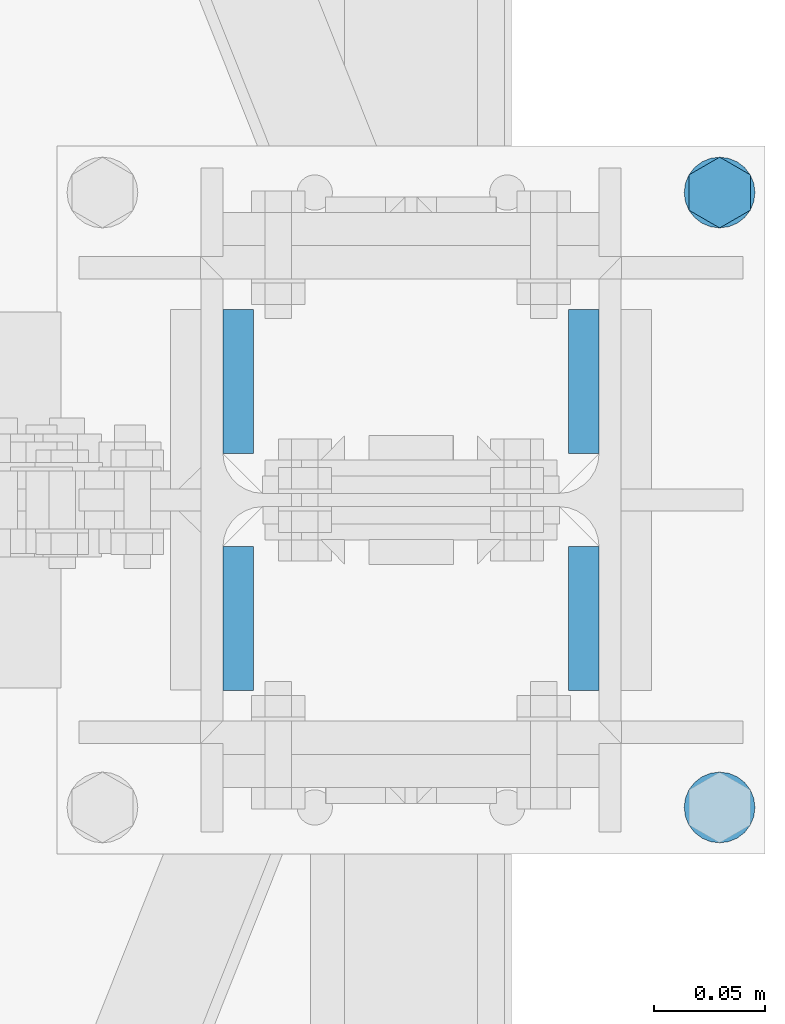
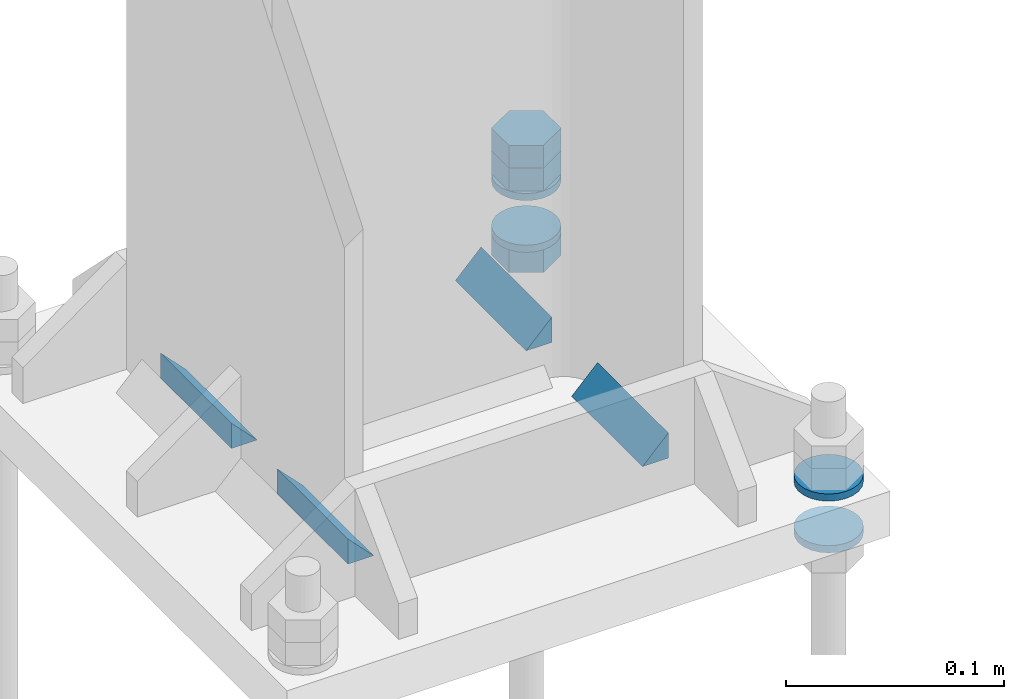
# One storey, part 167 of 251: 8 fasteners, 7 mechanical fasteners.
"""IFC4 building model written with IfcOpenShell, lengths in metres."""

from ifc_helpers import new_model, si_unit, frame, origin_with_axes, place, context, project, spatial, polyline, outline, extrude, type_object, element, save


model = new_model("IFC4")

# Units and contexts
model_context = context("Model", 3, precision=1e-05, world=origin_with_axes())
ifc_project = project(units=[si_unit("LENGTHUNIT", "METRE"), si_unit("AREAUNIT", "SQUARE_METRE"), si_unit("VOLUMEUNIT", "CUBIC_METRE"), si_unit("MASSUNIT", "GRAM", prefix="KILO"), si_unit("TIMEUNIT", "SECOND"), si_unit("PLANEANGLEUNIT", "RADIAN"), si_unit("SOLIDANGLEUNIT", "STERADIAN"), si_unit("THERMODYNAMICTEMPERATUREUNIT", "DEGREE_CELSIUS")], contexts=[model_context])

# Site, building, storey
placement_1 = place(None, origin_with_axes())
site = spatial("IfcSite", under=ifc_project, at=placement_1, Name="Italia", CompositionType="ELEMENT")
building = spatial("IfcBuilding", under=site, at=placement_1, Name="Deposito", CompositionType="ELEMENT")
storey = spatial("IfcBuildingStorey", under=building, at=placement_1, Name="Storey 0", CompositionType="ELEMENT", Elevation=0.0)

# Fasteners
fastener_type_1 = type_object("IfcFastenerType", Name="Collegamenti 0014_-001 0016_-054 0018_-056 0032_-002 0033_-058 0047_-003 0048_-060 0062_-004 0063_-005 0079_-008", PredefinedType="WELD")
placement_2 = place(placement_1, origin_with_axes())
fastener_1_placement = place(placement_2, origin_with_axes())
element("IfcFastener", 1, at=fastener_1_placement, inside=storey, type_object=fastener_type_1, Name="Collegamenti 0014_-001 0016_-054 0018_-056 0032_-002 0033_-058 0047_-003 0048_-060 0062_-004 0063_-005 0079_-008", context=model_context, shape_type="SweptSolid", body=[
    extrude(outline(polyline([(0.0, 0.0), (0.0137482, 0.0141734), (0.0137482, 0.0), (0.0, 0.0)])), frame((19.9287, 10.021, 0.07495), z_axis=(0.0, 1.0, 0.0), x_axis=(-1.0, 0.0, 0.0)), (0.0, 0.0, 1.0), 0.0650997),
])
fastener_type_2 = type_object("IfcFastenerType", Name="Collegamenti 0014_-001 0016_-054 0018_-056 0032_-002 0033_-058 0047_-003 0048_-060 0062_-004 0063_-005 0079_-008", PredefinedType="WELD")
fastener_2_placement = place(placement_2, origin_with_axes())
element("IfcFastener", 2, at=fastener_2_placement, inside=storey, type_object=fastener_type_2, Name="Collegamenti 0014_-001 0016_-054 0018_-056 0032_-002 0033_-058 0047_-003 0048_-060 0062_-004 0063_-005 0079_-008", context=model_context, shape_type="SweptSolid", body=[
    extrude(outline(polyline([(0.0, 0.0), (0.0137482, 0.0141734), (0.0137482, 0.0), (0.0, 0.0)])), frame((20.0713, 10.0861, 0.07495), z_axis=(0.0, -1.0, 0.0), x_axis=(1.0, 0.0, 0.0)), (0.0, 0.0, 1.0), 0.0650997),
])
fastener_type_3 = type_object("IfcFastenerType", Name="Collegamenti 0014_-001 0016_-054 0018_-056 0032_-002 0033_-058 0047_-003 0048_-060 0062_-004 0063_-005 0079_-008", PredefinedType="WELD")
fastener_3_placement = place(placement_2, origin_with_axes())
element("IfcFastener", 3, at=fastener_3_placement, inside=storey, type_object=fastener_type_3, Name="Collegamenti 0014_-001 0016_-054 0018_-056 0032_-002 0033_-058 0047_-003 0048_-060 0062_-004 0063_-005 0079_-008", context=model_context, shape_type="SweptSolid", body=[
    extrude(outline(polyline([(0.0, 0.0), (0.0137482, 0.0141734), (0.0137482, 0.0), (0.0, 0.0)])), frame((20.0713, 9.97905, 0.07495), z_axis=(0.0, -1.0, 0.0), x_axis=(1.0, 0.0, 0.0)), (0.0, 0.0, 1.0), 0.0650997),
])
fastener_type_4 = type_object("IfcFastenerType", Name="Collegamenti 0014_-001 0016_-054 0018_-056 0032_-002 0033_-058 0047_-003 0048_-060 0062_-004 0063_-005 0079_-008", PredefinedType="WELD")
fastener_4_placement = place(placement_2, origin_with_axes())
element("IfcFastener", 4, at=fastener_4_placement, inside=storey, type_object=fastener_type_4, Name="Collegamenti 0014_-001 0016_-054 0018_-056 0032_-002 0033_-058 0047_-003 0048_-060 0062_-004 0063_-005 0079_-008", context=model_context, shape_type="SweptSolid", body=[
    extrude(outline(polyline([(0.0, 0.0), (0.0137482, 0.0141734), (0.0137482, 0.0), (0.0, 0.0)])), frame((19.9287, 9.91395, 0.07495), z_axis=(0.0, 1.0, 0.0), x_axis=(-1.0, 0.0, 0.0)), (0.0, 0.0, 1.0), 0.0650997),
])
fastener_type_5 = type_object("IfcFastenerType", Name="Collegamenti 0014_-001 0016_-054 0018_-056 0032_-002 0033_-058 0047_-003 0048_-060 0062_-004 0063_-005 0079_-008", PredefinedType="WELD")
fastener_5_placement = place(placement_2, origin_with_axes())
element("IfcFastener", 5, at=fastener_5_placement, inside=storey, type_object=fastener_type_5, Name="Collegamenti 0014_-001 0016_-054 0018_-056 0032_-002 0033_-058 0047_-003 0048_-060 0062_-004 0063_-005 0079_-008", context=model_context, shape_type="SweptSolid", body=[
    extrude(outline(polyline([(0.0, 0.0), (0.0137482, 0.0141734), (0.0137482, 0.0), (0.0, 0.0)])), frame((19.9287, 10.021, 0.07495), z_axis=(0.0, 1.0, 0.0), x_axis=(-1.0, 0.0, 0.0)), (0.0, 0.0, 1.0), 0.0650997),
])
fastener_type_6 = type_object("IfcFastenerType", Name="Collegamenti 0014_-001 0016_-054 0018_-056 0032_-002 0033_-058 0047_-003 0048_-060 0062_-004 0063_-005 0079_-008", PredefinedType="WELD")
fastener_6_placement = place(placement_2, origin_with_axes())
element("IfcFastener", 6, at=fastener_6_placement, inside=storey, type_object=fastener_type_6, Name="Collegamenti 0014_-001 0016_-054 0018_-056 0032_-002 0033_-058 0047_-003 0048_-060 0062_-004 0063_-005 0079_-008", context=model_context, shape_type="SweptSolid", body=[
    extrude(outline(polyline([(0.0, 0.0), (0.0137482, 0.0141734), (0.0137482, 0.0), (0.0, 0.0)])), frame((20.0713, 10.0861, 0.07495), z_axis=(0.0, -1.0, 0.0), x_axis=(1.0, 0.0, 0.0)), (0.0, 0.0, 1.0), 0.0650997),
])
fastener_type_7 = type_object("IfcFastenerType", Name="Collegamenti 0014_-001 0016_-054 0018_-056 0032_-002 0033_-058 0047_-003 0048_-060 0062_-004 0063_-005 0079_-008", PredefinedType="WELD")
fastener_7_placement = place(placement_2, origin_with_axes())
element("IfcFastener", 7, at=fastener_7_placement, inside=storey, type_object=fastener_type_7, Name="Collegamenti 0014_-001 0016_-054 0018_-056 0032_-002 0033_-058 0047_-003 0048_-060 0062_-004 0063_-005 0079_-008", context=model_context, shape_type="SweptSolid", body=[
    extrude(outline(polyline([(0.0, 0.0), (0.0137482, 0.0141734), (0.0137482, 0.0), (0.0, 0.0)])), frame((20.0713, 9.97905, 0.07495), z_axis=(0.0, -1.0, 0.0), x_axis=(1.0, 0.0, 0.0)), (0.0, 0.0, 1.0), 0.0650997),
])
fastener_type_8 = type_object("IfcFastenerType", Name="Collegamenti 0014_-001 0016_-054 0018_-056 0032_-002 0033_-058 0047_-003 0048_-060 0062_-004 0063_-005 0079_-008", PredefinedType="WELD")
fastener_8_placement = place(placement_2, origin_with_axes())
element("IfcFastener", 8, at=fastener_8_placement, inside=storey, type_object=fastener_type_8, Name="Collegamenti 0014_-001 0016_-054 0018_-056 0032_-002 0033_-058 0047_-003 0048_-060 0062_-004 0063_-005 0079_-008", context=model_context, shape_type="SweptSolid", body=[
    extrude(outline(polyline([(0.0, 0.0), (0.0137482, 0.0141734), (0.0137482, 0.0), (0.0, 0.0)])), frame((19.9287, 9.91395, 0.07495), z_axis=(0.0, 1.0, 0.0), x_axis=(-1.0, 0.0, 0.0)), (0.0, 0.0, 1.0), 0.0650997),
])

# Mechanical fasteners
mechanical_fastener_type_1 = type_object("IfcMechanicalFastenerType", Name="Collegamenti 0014_-001 0016_-054 0018_-056 0032_-002 0033_-058 0047_-003 0048_-060 0062_-004 0063_-005 0079_-008", PredefinedType="BOLT")
mechanical_fastener_1_placement = place(placement_2, origin_with_axes())
element("IfcMechanicalFastener", 9, at=mechanical_fastener_1_placement, inside=storey, type_object=mechanical_fastener_type_1, Name="Collegamenti 0014_-001 0016_-054 0018_-056 0032_-002 0033_-058 0047_-003 0048_-060 0062_-004 0063_-005 0079_-008", NominalDiameter=0.032, context=model_context, shape_type="SweptSolid", body=[
    extrude(outline(polyline([(0.0, 0.0), (-0.000544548, -0.00414085), (-0.00214386, -0.00799942), (-0.00468636, -0.0113144), (-0.00799942, -0.0138569), (-0.0118589, -0.0154552), (-0.0159998, -0.0160007), (-0.0201406, -0.0154552), (-0.0240002, -0.0138569), (-0.0273132, -0.0113144), (-0.0298557, -0.00799942), (-0.031455, -0.00414085), (-0.0319996, 0.0), (-0.031455, 0.00414085), (-0.0298557, 0.00799942), (-0.0273132, 0.0113144), (-0.0240002, 0.0138569), (-0.0201406, 0.0154552), (-0.0159998, 0.0160007), (-0.0118589, 0.0154552), (-0.00799942, 0.0138569), (-0.00468636, 0.0113144), (-0.00214386, 0.00799942), (-0.000544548, 0.00414085), (0.0, 0.0)])), frame((20.1395, 9.877, 0.075), z_axis=(0.0, 0.0, 1.0), x_axis=(0.0, 1.0, 0.0)), (0.0, 0.0, 1.0), 0.00399999),
])
mechanical_fastener_type_2 = type_object("IfcMechanicalFastenerType", Name="Collegamenti 0014_-001 0016_-054 0018_-056 0032_-002 0033_-058 0047_-003 0048_-060 0062_-004 0063_-005 0079_-008", PredefinedType="BOLT")
mechanical_fastener_2_placement = place(placement_2, origin_with_axes())
element("IfcMechanicalFastener", 10, at=mechanical_fastener_2_placement, inside=storey, type_object=mechanical_fastener_type_2, Name="Collegamenti 0014_-001 0016_-054 0018_-056 0032_-002 0033_-058 0047_-003 0048_-060 0062_-004 0063_-005 0079_-008", NominalDiameter=0.032, context=model_context, shape_type="SweptSolid", body=[
    extrude(outline(polyline([(0.0, 0.0), (-0.000544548, -0.00414085), (-0.00214386, -0.00799942), (-0.00468636, -0.0113144), (-0.00799942, -0.0138569), (-0.0118589, -0.0154552), (-0.0159998, -0.0160007), (-0.0201406, -0.0154552), (-0.0240002, -0.0138569), (-0.0273132, -0.0113144), (-0.0298557, -0.00799942), (-0.031455, -0.00414085), (-0.0319996, 0.0), (-0.031455, 0.00414085), (-0.0298557, 0.00799942), (-0.0273132, 0.0113144), (-0.0240002, 0.0138569), (-0.0201406, 0.0154552), (-0.0159998, 0.0160007), (-0.0118589, 0.0154552), (-0.00799942, 0.0138569), (-0.00468636, 0.0113144), (-0.00214386, 0.00799942), (-0.000544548, 0.00414085), (0.0, 0.0)])), frame((20.1395, 9.877, 0.046), z_axis=(0.0, 0.0, 1.0), x_axis=(0.0, 1.0, 0.0)), (0.0, 0.0, 1.0), 0.004),
])
mechanical_fastener_type_3 = type_object("IfcMechanicalFastenerType", Name="Collegamenti 0014_-001 0016_-054 0018_-056 0032_-002 0033_-058 0047_-003 0048_-060 0062_-004 0063_-005 0079_-008", PredefinedType="BOLT")
mechanical_fastener_3_placement = place(placement_2, origin_with_axes())
element("IfcMechanicalFastener", 11, at=mechanical_fastener_3_placement, inside=storey, type_object=mechanical_fastener_type_3, Name="Collegamenti 0014_-001 0016_-054 0018_-056 0032_-002 0033_-058 0047_-003 0048_-060 0062_-004 0063_-005 0079_-008", NominalDiameter=0.0160001, context=model_context, shape_type="SweptSolid", body=[
    extrude(outline(polyline([(0.0, 0.0), (-0.0160007, 0.0), (-0.0240002, 0.0138569), (-0.0160007, 0.0277138), (0.0, 0.0277138), (0.00799942, 0.0138569), (0.0, 0.0)])), frame((20.1534, 10.147, 0.079), z_axis=(0.0, 0.0, 1.0), x_axis=(0.0, 1.0, 0.0)), (0.0, 0.0, 1.0), 0.0128),
])
mechanical_fastener_type_4 = type_object("IfcMechanicalFastenerType", Name="Collegamenti 0014_-001 0016_-054 0018_-056 0032_-002 0033_-058 0047_-003 0048_-060 0062_-004 0063_-005 0079_-008", PredefinedType="BOLT")
mechanical_fastener_4_placement = place(placement_2, origin_with_axes())
element("IfcMechanicalFastener", 12, at=mechanical_fastener_4_placement, inside=storey, type_object=mechanical_fastener_type_4, Name="Collegamenti 0014_-001 0016_-054 0018_-056 0032_-002 0033_-058 0047_-003 0048_-060 0062_-004 0063_-005 0079_-008", NominalDiameter=0.0160001, context=model_context, shape_type="SweptSolid", body=[
    extrude(outline(polyline([(0.0, 0.0), (-0.0160007, 0.0), (-0.0240002, 0.0138569), (-0.0160007, 0.0277138), (0.0, 0.0277138), (0.00799942, 0.0138569), (0.0, 0.0)])), frame((20.1534, 10.147, 0.0918), z_axis=(0.0, 0.0, 1.0), x_axis=(0.0, 1.0, 0.0)), (0.0, 0.0, 1.0), 0.0128),
])
mechanical_fastener_type_5 = type_object("IfcMechanicalFastenerType", Name="Collegamenti 0014_-001 0016_-054 0018_-056 0032_-002 0033_-058 0047_-003 0048_-060 0062_-004 0063_-005 0079_-008", PredefinedType="BOLT")
mechanical_fastener_5_placement = place(placement_2, origin_with_axes())
element("IfcMechanicalFastener", 13, at=mechanical_fastener_5_placement, inside=storey, type_object=mechanical_fastener_type_5, Name="Collegamenti 0014_-001 0016_-054 0018_-056 0032_-002 0033_-058 0047_-003 0048_-060 0062_-004 0063_-005 0079_-008", NominalDiameter=0.0160001, context=model_context, shape_type="SweptSolid", body=[
    extrude(outline(polyline([(0.0, 0.0), (-0.0160007, 0.0), (-0.0240002, 0.0138569), (-0.0160007, 0.0277138), (0.0, 0.0277138), (0.00799942, 0.0138569), (0.0, 0.0)])), frame((20.1534, 10.147, 0.0332), z_axis=(0.0, 0.0, 1.0), x_axis=(0.0, 1.0, 0.0)), (0.0, 0.0, 1.0), 0.0128),
])
mechanical_fastener_type_6 = type_object("IfcMechanicalFastenerType", Name="Collegamenti 0014_-001 0016_-054 0018_-056 0032_-002 0033_-058 0047_-003 0048_-060 0062_-004 0063_-005 0079_-008", PredefinedType="BOLT")
mechanical_fastener_6_placement = place(placement_2, origin_with_axes())
element("IfcMechanicalFastener", 14, at=mechanical_fastener_6_placement, inside=storey, type_object=mechanical_fastener_type_6, Name="Collegamenti 0014_-001 0016_-054 0018_-056 0032_-002 0033_-058 0047_-003 0048_-060 0062_-004 0063_-005 0079_-008", NominalDiameter=0.032, context=model_context, shape_type="SweptSolid", body=[
    extrude(outline(polyline([(0.0, 0.0), (-0.000544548, -0.00414085), (-0.00214386, -0.00799942), (-0.00468636, -0.0113144), (-0.00799942, -0.0138569), (-0.0118589, -0.0154552), (-0.0159998, -0.0160007), (-0.0201406, -0.0154552), (-0.0240002, -0.0138569), (-0.0273132, -0.0113144), (-0.0298557, -0.00799942), (-0.031455, -0.00414085), (-0.0319996, 0.0), (-0.031455, 0.00414085), (-0.0298557, 0.00799942), (-0.0273132, 0.0113144), (-0.0240002, 0.0138569), (-0.0201406, 0.0154552), (-0.0159998, 0.0160007), (-0.0118589, 0.0154552), (-0.00799942, 0.0138569), (-0.00468636, 0.0113144), (-0.00214386, 0.00799942), (-0.000544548, 0.00414085), (0.0, 0.0)])), frame((20.1395, 10.155, 0.075), z_axis=(0.0, 0.0, 1.0), x_axis=(0.0, 1.0, 0.0)), (0.0, 0.0, 1.0), 0.00399999),
])
mechanical_fastener_type_7 = type_object("IfcMechanicalFastenerType", Name="Collegamenti 0014_-001 0016_-054 0018_-056 0032_-002 0033_-058 0047_-003 0048_-060 0062_-004 0063_-005 0079_-008", PredefinedType="BOLT")
mechanical_fastener_7_placement = place(placement_2, origin_with_axes())
element("IfcMechanicalFastener", 15, at=mechanical_fastener_7_placement, inside=storey, type_object=mechanical_fastener_type_7, Name="Collegamenti 0014_-001 0016_-054 0018_-056 0032_-002 0033_-058 0047_-003 0048_-060 0062_-004 0063_-005 0079_-008", NominalDiameter=0.032, context=model_context, shape_type="SweptSolid", body=[
    extrude(outline(polyline([(0.0, 0.0), (-0.000544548, -0.00414085), (-0.00214386, -0.00799942), (-0.00468636, -0.0113144), (-0.00799942, -0.0138569), (-0.0118589, -0.0154552), (-0.0159998, -0.0160007), (-0.0201406, -0.0154552), (-0.0240002, -0.0138569), (-0.0273132, -0.0113144), (-0.0298557, -0.00799942), (-0.031455, -0.00414085), (-0.0319996, 0.0), (-0.031455, 0.00414085), (-0.0298557, 0.00799942), (-0.0273132, 0.0113144), (-0.0240002, 0.0138569), (-0.0201406, 0.0154552), (-0.0159998, 0.0160007), (-0.0118589, 0.0154552), (-0.00799942, 0.0138569), (-0.00468636, 0.0113144), (-0.00214386, 0.00799942), (-0.000544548, 0.00414085), (0.0, 0.0)])), frame((20.1395, 10.155, 0.046), z_axis=(0.0, 0.0, 1.0), x_axis=(0.0, 1.0, 0.0)), (0.0, 0.0, 1.0), 0.004),
])

save(model, "model.ifc")
